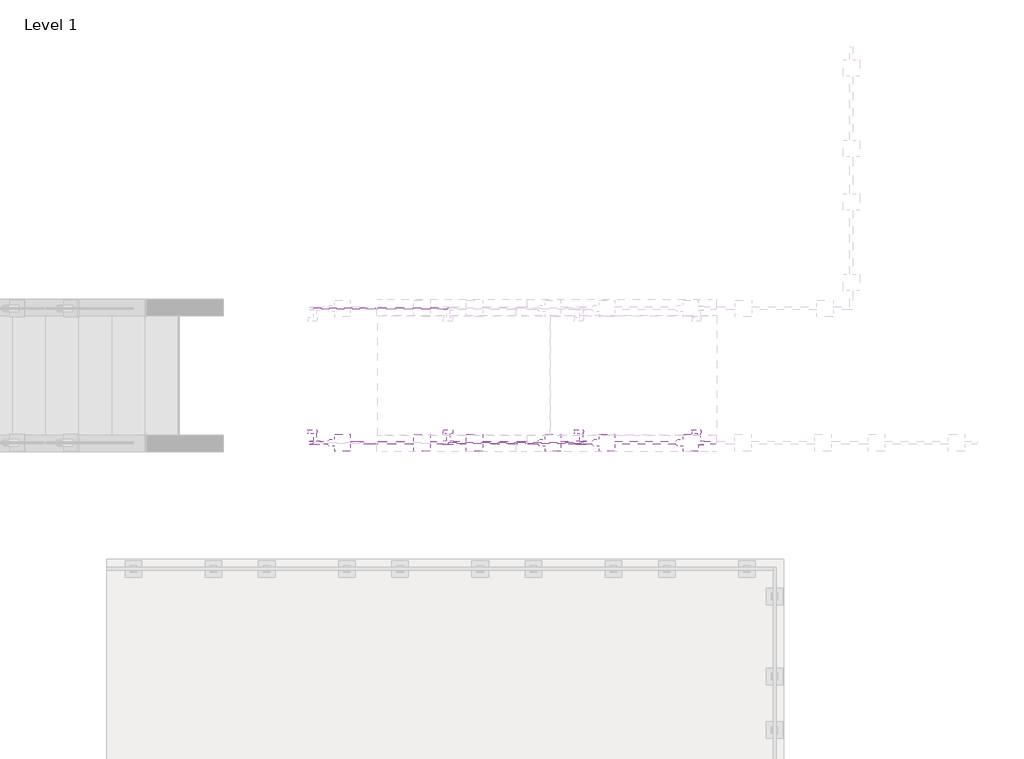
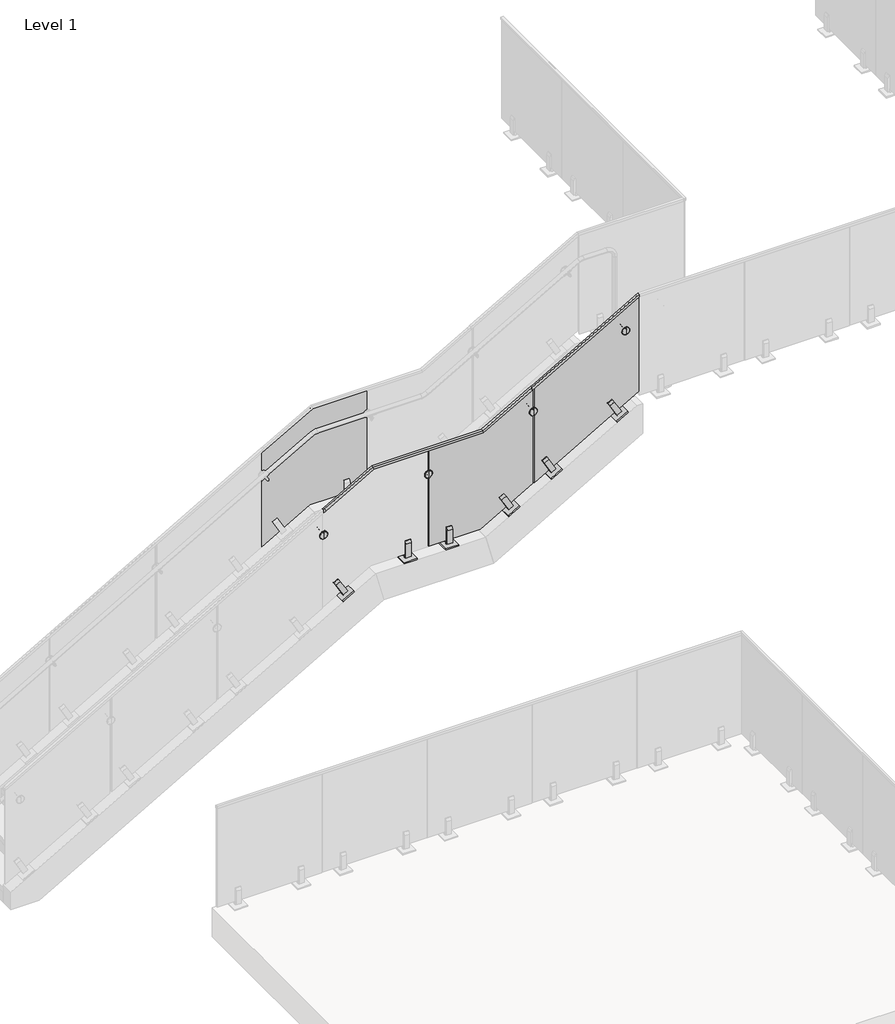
# One storey, part 15 of 17: 4 railings.
"""IFC4 building model written with IfcOpenShell, lengths in millimetres."""

from ifc_helpers import new_model, si_unit, point, frame, frame_2d, origin, place, context, project, spatial, polyline, circle_curve, trimmed, segment, composite_curve, outline, extrude, faceted_brep, transform, mapped, element, save
from ifc_brep_helpers import plane_surface, cylinder_surface, revolved_surface, advanced_brep
from components import standard_glass_22e67f8d, standard_glass_76b25bda

model = new_model("IFC4")

# Units and contexts
model_context = context("Model", 3, world=origin())
ifc_project = project(units=[si_unit("LENGTHUNIT", "METRE", prefix="MILLI")], contexts=[model_context])

# Site, building, storey
site = spatial("IfcSite", under=ifc_project)
building = spatial("IfcBuilding", under=site)
storey = spatial("IfcBuildingStorey", under=building, Name="Level 1", Elevation=0.0)

# Railings
placement = place(None, origin())
element("IfcRailing", 1, ObjectType="VIVA-VISIO-Glass-Concrete Surface Mount-Stair_Upper", at=placement, inside=storey, context=model_context, shape_type="SolidModel", body=[
    faceted_brep([(29407.4425061, -2434.2694611, 3542.8464286), (29407.4425061, -2412.5405549, 3542.8464286), (29407.4425061, -2412.5405549, 3513.5919505), (29407.4425061, -2417.055008, 3513.5919505), (29407.4425061, -2417.055008, 3538.4582569), (29407.4425061, -2429.755008, 3538.4582569), (29407.4425061, -2429.755008, 3513.5919505), (29407.4425061, -2434.2694611, 3513.5919505), (30452.8112561, -2434.2694611, 4140.2), (30452.8112561, -2434.2694611, 4110.9455219), (30452.8112561, -2429.755008, 4110.9455219), (30452.8112561, -2429.755008, 4135.8118283), (30452.8112561, -2417.055008, 4135.8118283), (30452.8112561, -2417.055008, 4110.9455219), (30452.8112561, -2412.5405549, 4110.9455219), (30452.8112561, -2412.5405549, 4140.2)], [[[0, 1, 2, 3, 4, 5, 6, 7]], [[8, 9, 10, 11, 12, 13, 14, 15]], [[1, 0, 8, 15]], [[2, 1, 15, 14]], [[3, 2, 14, 13]], [[4, 3, 13, 12]], [[5, 4, 12, 11]], [[6, 5, 11, 10]], [[7, 6, 10, 9]], [[0, 7, 9, 8]]]),
    extrude(outline(polyline([(0.0, 127.0000001), (127.0, 127.0000001), (127.0, 0.0), (0.0, 0.0), (0.0, 127.0000001)])), frame((30205.7490665, -2359.9117549, 2941.2860023), z_axis=(-0.4961389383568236, 0.0, 0.8682431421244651), x_axis=(0.0, -1.0, 0.0)), (0.0, 0.0, 1.0), 12.7),
    extrude(outline(polyline([(0.0, 12.7), (50.8, 12.7), (50.8, 0.0), (0.0, 0.0), (0.0, 12.7)])), frame((30238.8291303, -2429.7617549, 2960.1888959), z_axis=(-0.49613893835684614, 0.0, 0.8682431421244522), x_axis=(0.8682431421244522, 0.0, 0.49613893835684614)), (0.0, 0.0, 1.0), 50.8),
    extrude(outline(polyline([(0.0, 0.0), (0.0, 19.05), (166.6875, 19.05), (166.6875, 11.1125), (139.7, 0.0), (0.0, 0.0)])), frame((30227.0148218, -2398.0117549, 2980.8639357), z_axis=(0.8682431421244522, 0.0, 0.49613893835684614), x_axis=(-0.49613893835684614, 0.0, 0.8682431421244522)), (0.0, 0.0, 1.0), 50.8),
    extrude(outline(polyline([(0.0, 50.8), (139.7, 50.8), (166.6875, 39.6875), (166.6875, 31.75), (0.0, 31.75), (0.0, 50.8)])), frame((30227.0148218, -2398.0117549, 2980.8639357), z_axis=(0.8682431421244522, 0.0, 0.49613893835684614), x_axis=(-0.49613893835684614, 0.0, 0.8682431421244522)), (0.0, 0.0, 1.0), 50.8),
    extrude(outline(polyline([(4136.1482161, 30449.2255527), (3555.5767875, 29433.2255527), (2556.7751106, 29433.2255527), (3137.3465392, 30449.2255527), (4136.1482161, 30449.2255527)])), frame((0.0, -2429.7617549, 0.0), z_axis=(0.0, 1.0, 0.0), x_axis=(0.0, 0.0, 1.0)), (0.0, 0.0, 1.0), 12.7),
    extrude(outline(polyline([(0.0, 127.0000001), (127.0, 127.0000001), (127.0, 0.0), (0.0, 0.0), (0.0, 127.0000001)])), frame((29565.6690665, -2359.9117549, 2575.5260023), z_axis=(-0.4961389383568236, 0.0, 0.8682431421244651), x_axis=(0.0, -1.0, 0.0)), (0.0, 0.0, 1.0), 12.7),
    extrude(outline(polyline([(0.0, 12.7), (50.8, 12.7), (50.8, 0.0), (0.0, 0.0), (0.0, 12.7)])), frame((29598.7491303, -2429.7617549, 2594.4288959), z_axis=(-0.49613893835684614, 0.0, 0.8682431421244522), x_axis=(0.8682431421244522, 0.0, 0.49613893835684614)), (0.0, 0.0, 1.0), 50.8),
    extrude(outline(polyline([(0.0, 0.0), (0.0, 19.05), (166.6875, 19.05), (166.6875, 11.1125), (139.7, 0.0), (0.0, 0.0)])), frame((29586.9348218, -2398.0117549, 2615.1039357), z_axis=(0.8682431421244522, 0.0, 0.49613893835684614), x_axis=(-0.49613893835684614, 0.0, 0.8682431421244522)), (0.0, 0.0, 1.0), 50.8),
    extrude(outline(polyline([(0.0, 50.8), (139.7, 50.8), (166.6875, 39.6875), (166.6875, 31.75), (0.0, 31.75), (0.0, 50.8)])), frame((29586.9348218, -2398.0117549, 2615.1039357), z_axis=(0.8682431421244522, 0.0, 0.49613893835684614), x_axis=(-0.49613893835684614, 0.0, 0.8682431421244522)), (0.0, 0.0, 1.0), 50.8),
    extrude(outline(composite_curve([segment(trimmed(circle_curve(frame_2d((0.0, -7.0)), 7.0), [point((0.0, -14.0))], [point((0.0, 0.0))], False, "CARTESIAN"), True, "CONTINUOUS"), segment(trimmed(circle_curve(frame_2d((0.0, -7.0)), 7.0), [point((0.0, 0.0))], [point((0.0, -14.0))], False, "CARTESIAN"), True, "CONTINUOUS")], self_intersect=False)), frame((30334.6386992, -2348.1918939, 3785.9221988), z_axis=(-0.5018548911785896, 0.0, 0.8649518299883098), x_axis=(-0.8649518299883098, 0.0, -0.5018548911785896)), (0.0, 0.0, 1.0), 52.8378352),
    extrude(outline(composite_curve([segment(trimmed(circle_curve(frame_2d((18.6575252, 0.3952033)), 19.05), [point((5.2466064, 13.9247915))], [point((5.2466064, -13.134385))], True, "CARTESIAN"), True, "CONTINUOUS"), segment(polyline([(5.2466064, -13.134385), (4.2292194, -14.1607746)]), True, "CONTINUOUS"), segment(trimmed(circle_curve(frame_2d((3.1638975, -13.1047967)), 1.5), [point((4.2292194, -14.1607746))], [point((2.0329757, -14.0901982))], False, "CARTESIAN"), True, "CONTINUOUS"), segment(trimmed(circle_curve(frame_2d((18.6575252, 0.3952033)), 22.05), [point((2.0329757, -14.0901982))], [point((2.0329757, 14.8806047))], False, "CARTESIAN"), True, "CONTINUOUS"), segment(trimmed(circle_curve(frame_2d((3.1638975, 13.8952033)), 1.5), [point((2.0329757, 14.8806047))], [point((4.2292194, 14.9511811))], False, "CARTESIAN"), True, "CONTINUOUS"), segment(polyline([(4.2292194, 14.9511811), (5.2466064, 13.9247915)]), True, "CONTINUOUS")], self_intersect=False)), frame((30270.1709172, -2339.4646616, 3813.6633816), z_axis=(0.8664916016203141, 0.0, 0.49919165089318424), x_axis=(-0.49919165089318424, 0.0, 0.8664916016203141)), (0.0, 0.0, 1.0), 74.5229187),
    extrude(outline(composite_curve([segment(trimmed(circle_curve(frame_2d((3808.0587143, 30321.8425061)), 11.0132813), [point((3808.0587143, 30332.8557873))], [point((3808.0587143, 30310.8292248))], False, "CARTESIAN"), True, "CONTINUOUS"), segment(trimmed(circle_curve(frame_2d((3808.0587143, 30321.8425061)), 11.0132813), [point((3808.0587143, 30310.8292248))], [point((3808.0587143, 30332.8557873))], False, "CARTESIAN"), True, "CONTINUOUS")], self_intersect=False)), frame((0.0, -2407.4375361, 0.0), z_axis=(0.0, 1.0, 0.0), x_axis=(0.0, 0.0, 1.0)), (0.0, 0.0, 1.0), 79.2757812),
    advanced_brep(
    [(30321.8425061, -2439.3859736, 3808.0587143), (30321.8425061, -2439.3859736, 3844.1743393), (30321.8425061, -2439.3859736, 3771.9430893), (30321.8425061, -2407.4375361, 3771.9430893), (30321.8425061, -2407.4375361, 3844.1743393), (30321.8425061, -2407.4375361, 3808.0587143), (30321.8425061, -2409.4219111, 3769.9587143), (30321.8425061, -2409.4219111, 3846.1587143), (30321.8425061, -2417.0617549, 3769.9587143), (30321.8425061, -2417.0617549, 3846.1587143), (30321.8425061, -2417.0617549, 3795.3587143), (30321.8425061, -2417.0617549, 3820.7587143), (30321.8425061, -2429.7617549, 3795.3587143), (30321.8425061, -2429.7617549, 3820.7587143), (30321.8425061, -2429.7617549, 3769.9587143), (30321.8425061, -2429.7617549, 3846.1587143), (30321.8425061, -2437.4015986, 3769.9587143), (30321.8425061, -2437.4015986, 3846.1587143)],
    [
        (0, 1),
        (1, 2, circle_curve(frame((30321.8425061, -2439.3859736, 3808.0587143), z_axis=(0.0, -1.0, 0.0), x_axis=(0.0, 0.0, 1.0)), 36.115625)),
        (2, 0),
        (2, 1, circle_curve(frame((30321.8425061, -2439.3859736, 3808.0587143), z_axis=(0.0, -1.0, 0.0), x_axis=(0.0, 0.0, 1.0)), 36.115625)),
        (3, 4, circle_curve(frame((30321.8425061, -2407.4375361, 3808.0587143), z_axis=(0.0, 1.0, 0.0), x_axis=(0.0, 0.0, 1.0)), 36.115625)),
        (4, 5),
        (5, 3),
        (4, 3, circle_curve(frame((30321.8425061, -2407.4375361, 3808.0587143), z_axis=(0.0, 1.0, 0.0), x_axis=(0.0, 0.0, 1.0)), 36.115625)),
        (6, 7, circle_curve(frame((30321.8425061, -2409.4219111, 3808.0587143), z_axis=(0.0, 1.0, 0.0), x_axis=(0.0, 0.0, 1.0)), 38.1)),
        (7, 4),
        (3, 6),
        (7, 6, circle_curve(frame((30321.8425061, -2409.4219111, 3808.0587143), z_axis=(0.0, 1.0, 0.0), x_axis=(0.0, 0.0, 1.0)), 38.1)),
        (8, 9, circle_curve(frame((30321.8425061, -2417.0617549, 3808.0587143), z_axis=(0.0, 1.0, 0.0), x_axis=(0.0, 0.0, 1.0)), 38.1)),
        (9, 7),
        (6, 8),
        (9, 8, circle_curve(frame((30321.8425061, -2417.0617549, 3808.0587143), z_axis=(0.0, 1.0, 0.0), x_axis=(0.0, 0.0, 1.0)), 38.1)),
        (10, 11, circle_curve(frame((30321.8425061, -2417.0617549, 3808.0587143), z_axis=(0.0, 1.0, 0.0), x_axis=(0.0, 0.0, 1.0)), 12.7)),
        (11, 9),
        (8, 10),
        (11, 10, circle_curve(frame((30321.8425061, -2417.0617549, 3808.0587143), z_axis=(0.0, 1.0, 0.0), x_axis=(0.0, 0.0, 1.0)), 12.7)),
        (12, 13, circle_curve(frame((30321.8425061, -2429.7617549, 3808.0587143), z_axis=(0.0, 1.0, 0.0), x_axis=(0.0, 0.0, 1.0)), 12.7)),
        (13, 11),
        (10, 12),
        (13, 12, circle_curve(frame((30321.8425061, -2429.7617549, 3808.0587143), z_axis=(0.0, 1.0, 0.0), x_axis=(0.0, 0.0, 1.0)), 12.7)),
        (14, 15, circle_curve(frame((30321.8425061, -2429.7617549, 3808.0587143), z_axis=(0.0, 1.0, 0.0), x_axis=(0.0, 0.0, 1.0)), 38.1)),
        (15, 13),
        (12, 14),
        (15, 14, circle_curve(frame((30321.8425061, -2429.7617549, 3808.0587143), z_axis=(0.0, 1.0, 0.0), x_axis=(0.0, 0.0, 1.0)), 38.1)),
        (16, 17, circle_curve(frame((30321.8425061, -2437.4015986, 3808.0587143), z_axis=(0.0, 1.0, 0.0), x_axis=(0.0, 0.0, 1.0)), 38.1)),
        (17, 15),
        (14, 16),
        (17, 16, circle_curve(frame((30321.8425061, -2437.4015986, 3808.0587143), z_axis=(0.0, 1.0, 0.0), x_axis=(0.0, 0.0, 1.0)), 38.1)),
        (1, 17),
        (16, 2),
    ],
    [
        plane_surface(frame((30321.8425061, -2439.3859736, 3808.0587143), z_axis=(0.0, -1.0, 0.0), x_axis=(0.0, 0.0, 1.0))),
        plane_surface(frame((30321.8425061, -2407.4375361, 3808.0587143), z_axis=(0.0, 1.0, 0.0), x_axis=(0.0, 0.0, 1.0))),
        revolved_surface(polyline([(30321.8425061, -2407.4375361, 3844.1743393), (30321.8425061, -2409.4219111, 3846.1587143)]), (30321.8425061, -2475.5015986, 3808.0587143), (0.0, -1.0, 0.0)),
        cylinder_surface(frame((30321.8425061, -2475.5015986, 3808.0587143), z_axis=(0.0, -1.0, 0.0), x_axis=(0.0, 0.0, 1.0)), 38.1),
        plane_surface(frame((30321.8425061, -2417.0617549, 3808.0587143), z_axis=(0.0, -1.0, 0.0), x_axis=(0.0, 0.0, 1.0))),
        cylinder_surface(frame((30321.8425061, -2475.5015986, 3808.0587143), z_axis=(0.0, -1.0, 0.0), x_axis=(0.0, 0.0, 1.0)), 12.7),
        plane_surface(frame((30321.8425061, -2429.7617549, 3808.0587143), z_axis=(0.0, 1.0, 0.0), x_axis=(0.0, 0.0, 1.0))),
        revolved_surface(polyline([(30321.8425061, -2437.4015986, 3846.1587143), (30321.8425061, -2439.3859736, 3844.1743393)]), (30321.8425061, -2475.5015986, 3808.0587143), (0.0, -1.0, 0.0)),
    ],
    [
        (0, [[1, 2, 3]]),
        (0, [[-3, 4, -1]]),
        (1, [[5, 6, 7]]),
        (1, [[8, -7, -6]]),
        (2, [[9, 10, -5, 11]]),
        (2, [[12, -11, -8, -10]]),
        (3, [[13, 14, -9, 15]]),
        (3, [[16, -15, -12, -14]]),
        (4, [[17, 18, -13, 19]]),
        (4, [[20, -19, -16, -18]]),
        (5, [[21, 22, -17, 23]]),
        (5, [[24, -23, -20, -22]]),
        (6, [[25, 26, -21, 27]]),
        (6, [[28, -27, -24, -26]]),
        (3, [[29, 30, -25, 31]]),
        (3, [[32, -31, -28, -30]]),
        (7, [[-2, 33, -29, 34]]),
        (7, [[-4, -34, -32, -33]]),
    ],
),
])
element("IfcRailing", 2, ObjectType="VIVA-VISIO-Glass-Concrete Surface Mount-Landing", at=placement, inside=storey, context=model_context, shape_type="SolidModel", body=[
    faceted_brep([(29408.2362561, -2434.2694611, 3543.3), (29408.2362561, -2434.2694611, 3514.0455219), (29408.2362561, -2429.755008, 3514.0455219), (29408.2362561, -2429.755008, 3538.9118283), (29408.2362561, -2417.055008, 3538.9118283), (29408.2362561, -2417.055008, 3514.0455219), (29408.2362561, -2412.5405549, 3514.0455219), (29408.2362561, -2412.5405549, 3543.3), (27395.2862561, -2412.5405549, 3002.6428571), (27395.2862561, -2434.2694611, 3002.6428571), (27862.0112561, -2434.2694611, 3269.3428571), (27862.0112561, -2412.5405549, 3269.3428571), (27407.8863063, -2412.5405549, 2980.5884077), (27868.7565928, -2412.5405549, 3243.9428571), (27407.8863063, -2417.055008, 2980.5884077), (27868.7565928, -2417.055008, 3243.9428571), (27397.1762636, -2417.055008, 2999.3346897), (27863.0230566, -2417.055008, 3265.5328571), (27397.1762636, -2429.755008, 2999.3346897), (27863.0230566, -2429.755008, 3265.5328571), (27407.8863063, -2429.755008, 2980.5884077), (27868.7565928, -2429.755008, 3243.9428571), (27407.8863063, -2434.2694611, 2980.5884077), (27868.7565928, -2434.2694611, 3243.9428571), (28928.8112561, -2434.2694611, 3269.3428571), (28928.8112561, -2412.5405549, 3269.3428571), (28935.5565928, -2412.5405549, 3243.9428571), (28935.5565928, -2417.055008, 3243.9428571), (28929.8230566, -2417.055008, 3265.5328571), (28929.8230566, -2429.755008, 3265.5328571), (28935.5565928, -2429.755008, 3243.9428571), (28935.5565928, -2434.2694611, 3243.9428571), (27379.4112561, -2434.2694611, 2993.5732226), (27379.4112561, -2412.5405549, 2993.5732226), (27379.4112561, -2412.5405549, 2964.3201685), (27379.4112561, -2417.055008, 2964.3201685), (27379.4112561, -2417.055008, 2989.1852645), (27379.4112561, -2429.755008, 2989.1852645), (27379.4112561, -2429.755008, 2964.3201685), (27379.4112561, -2434.2694611, 2964.3201685)], [[[0, 1, 2, 3, 4, 5, 6, 7]], [[8, 9, 10, 11]], [[12, 8, 11, 13]], [[14, 12, 13, 15]], [[16, 14, 15, 17]], [[18, 16, 17, 19]], [[20, 18, 19, 21]], [[22, 20, 21, 23]], [[9, 22, 23, 10]], [[11, 10, 24, 25]], [[13, 11, 25, 26]], [[15, 13, 26, 27]], [[17, 15, 27, 28]], [[19, 17, 28, 29]], [[21, 19, 29, 30]], [[23, 21, 30, 31]], [[10, 23, 31, 24]], [[25, 24, 0, 7]], [[26, 25, 7, 6]], [[27, 26, 6, 5]], [[28, 27, 5, 4]], [[29, 28, 4, 3]], [[30, 29, 3, 2]], [[31, 30, 2, 1]], [[24, 31, 1, 0]], [[32, 33, 34, 35, 36, 37, 38, 39]], [[33, 32, 9, 8]], [[34, 33, 8, 12]], [[35, 34, 12, 14]], [[36, 35, 14, 16]], [[37, 36, 16, 18]], [[38, 37, 18, 20]], [[39, 38, 20, 22]], [[32, 39, 22, 9]]]),
    extrude(outline(polyline([(0.0, 127.0000001), (127.0, 127.0000001), (127.0, 0.0), (0.0, 0.0), (0.0, 127.0000001)])), frame((29151.8078165, -2359.9117549, 2339.0338595), z_axis=(-0.4961389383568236, 0.0, 0.8682431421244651), x_axis=(0.0, -1.0, 0.0)), (0.0, 0.0, 1.0), 12.7),
    extrude(outline(polyline([(0.0, 12.7), (50.8, 12.7), (50.8, 0.0), (0.0, 0.0), (0.0, 12.7)])), frame((29184.8878803, -2429.7617549, 2357.936753), z_axis=(-0.49613893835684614, 0.0, 0.8682431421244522), x_axis=(0.8682431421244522, 0.0, 0.49613893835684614)), (0.0, 0.0, 1.0), 50.8),
    extrude(outline(polyline([(0.0, 0.0), (0.0, 19.05), (166.6875, 19.05), (166.6875, 11.1125), (139.7, 0.0), (0.0, 0.0)])), frame((29173.0735718, -2398.0117549, 2378.6117929), z_axis=(0.8682431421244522, 0.0, 0.49613893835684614), x_axis=(-0.49613893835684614, 0.0, 0.8682431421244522)), (0.0, 0.0, 1.0), 50.8),
    extrude(outline(polyline([(0.0, 50.8), (139.7, 50.8), (166.6875, 39.6875), (166.6875, 31.75), (0.0, 31.75), (0.0, 50.8)])), frame((29173.0735718, -2398.0117549, 2378.6117929), z_axis=(0.8682431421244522, 0.0, 0.49613893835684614), x_axis=(-0.49613893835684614, 0.0, 0.8682431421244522)), (0.0, 0.0, 1.0), 50.8),
    extrude(outline(polyline([(28666.5562561, -2359.9117549), (28666.5562561, -2486.9117549), (28539.5562561, -2486.9117549), (28539.5562561, -2359.9117549), (28666.5562561, -2359.9117549)])), frame((0.0, 0.0, 2208.8928571), z_axis=(0.0, 0.0, 1.0), x_axis=(1.0, 0.0, 0.0)), (0.0, 0.0, 1.0), 12.7),
    extrude(outline(polyline([(28577.6562561, -2417.0617549), (28628.4562561, -2417.0617549), (28628.4562561, -2429.7617549), (28577.6562561, -2429.7617549), (28577.6562561, -2417.0617549)])), frame((0.0, 0.0, 2208.8928571), z_axis=(0.0, 0.0, 1.0), x_axis=(1.0, 0.0, 0.0)), (0.0, 0.0, 1.0), 50.8),
    extrude(outline(polyline([(-2398.0117549, 2232.7053571), (-2417.0617549, 2232.7053571), (-2417.0617549, 2399.3928571), (-2409.1242549, 2399.3928571), (-2398.0117549, 2372.4053571), (-2398.0117549, 2232.7053571)])), frame((28577.6562561, 0.0, 0.0), z_axis=(1.0, 0.0, 0.0), x_axis=(0.0, 1.0, 0.0)), (0.0, 0.0, 1.0), 50.8),
    extrude(outline(polyline([(-2448.8117549, 2232.7053571), (-2448.8117549, 2372.4053571), (-2437.6992549, 2399.3928571), (-2429.7617549, 2399.3928571), (-2429.7617549, 2232.7053571), (-2448.8117549, 2232.7053571)])), frame((28577.6562561, 0.0, 0.0), z_axis=(1.0, 0.0, 0.0), x_axis=(0.0, 1.0, 0.0)), (0.0, 0.0, 1.0), 50.8),
    extrude(outline(composite_curve([segment(trimmed(circle_curve(frame_2d((0.0, -7.0)), 7.0), [point((0.0, -14.0))], [point((0.0, 0.0))], False, "CARTESIAN"), True, "CONTINUOUS"), segment(trimmed(circle_curve(frame_2d((0.0, -7.0)), 7.0), [point((0.0, 0.0))], [point((0.0, -14.0))], False, "CARTESIAN"), True, "CONTINUOUS")], self_intersect=False)), frame((28401.7612561, -2348.1918939, 2982.4079722), z_axis=(-0.0016124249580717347, 0.0, 0.9999987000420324), x_axis=(-0.9999987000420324, 0.0, -0.0016124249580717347)), (0.0, 0.0, 1.0), 52.8378352),
    extrude(outline(composite_curve([segment(polyline([(5.2466064, -13.9247915), (4.2292193, -14.9511811)]), True, "CONTINUOUS"), segment(trimmed(circle_curve(frame_2d((3.1638974, -13.8952033)), 1.5), [point((4.2292193, -14.9511811))], [point((2.0329757, -14.8806047))], False, "CARTESIAN"), True, "CONTINUOUS"), segment(trimmed(circle_curve(frame_2d((18.6575252, -0.3952033)), 22.05), [point((2.0329757, -14.8806047))], [point((2.0329757, 14.0901982))], False, "CARTESIAN"), True, "CONTINUOUS"), segment(trimmed(circle_curve(frame_2d((3.1638974, 13.1047967)), 1.5), [point((2.0329757, 14.0901982))], [point((4.2292193, 14.1607746))], False, "CARTESIAN"), True, "CONTINUOUS"), segment(polyline([(4.2292193, 14.1607746), (5.2466064, 13.134385)]), True, "CONTINUOUS"), segment(trimmed(circle_curve(frame_2d((18.6575252, -0.3952033)), 19.05), [point((5.2466064, 13.134385))], [point((5.2466064, -13.9247915))], True, "CARTESIAN"), True, "CONTINUOUS")], self_intersect=False)), frame((28437.5288142, -2339.4646616, 3038.5796008), z_axis=(-0.9999989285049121, 0.0, 0.0014638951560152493), x_axis=(0.0014638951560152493, 0.0, 0.9999989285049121)), (0.0, 0.0, 1.0), 74.5229187),
    extrude(outline(composite_curve([segment(trimmed(circle_curve(frame_2d((3007.9768571, 28401.7612561)), 11.0132813), [point((3007.9768571, 28412.7745373))], [point((3007.9768571, 28390.7479748))], False, "CARTESIAN"), True, "CONTINUOUS"), segment(trimmed(circle_curve(frame_2d((3007.9768571, 28401.7612561)), 11.0132813), [point((3007.9768571, 28390.7479748))], [point((3007.9768571, 28412.7745373))], False, "CARTESIAN"), True, "CONTINUOUS")], self_intersect=False)), frame((0.0, -2407.4375361, 0.0), z_axis=(0.0, 1.0, 0.0), x_axis=(0.0, 0.0, 1.0)), (0.0, 0.0, 1.0), 79.2757812),
    advanced_brep(
    [(28401.7612561, -2439.3859736, 3007.9768571), (28401.7612561, -2439.3859736, 3044.0924821), (28401.7612561, -2439.3859736, 2971.8612321), (28401.7612561, -2407.4375361, 2971.8612321), (28401.7612561, -2407.4375361, 3044.0924821), (28401.7612561, -2407.4375361, 3007.9768571), (28401.7612561, -2409.4219111, 2969.8768571), (28401.7612561, -2409.4219111, 3046.0768571), (28401.7612561, -2417.0617549, 2969.8768571), (28401.7612561, -2417.0617549, 3046.0768571), (28401.7612561, -2417.0617549, 2995.2768571), (28401.7612561, -2417.0617549, 3020.6768571), (28401.7612561, -2429.7617549, 2995.2768571), (28401.7612561, -2429.7617549, 3020.6768571), (28401.7612561, -2429.7617549, 2969.8768571), (28401.7612561, -2429.7617549, 3046.0768571), (28401.7612561, -2437.4015986, 2969.8768571), (28401.7612561, -2437.4015986, 3046.0768571)],
    [
        (0, 1),
        (1, 2, circle_curve(frame((28401.7612561, -2439.3859736, 3007.9768571), z_axis=(0.0, -1.0, 0.0), x_axis=(0.0, 0.0, 1.0)), 36.115625)),
        (2, 0),
        (2, 1, circle_curve(frame((28401.7612561, -2439.3859736, 3007.9768571), z_axis=(0.0, -1.0, 0.0), x_axis=(0.0, 0.0, 1.0)), 36.115625)),
        (3, 4, circle_curve(frame((28401.7612561, -2407.4375361, 3007.9768571), z_axis=(0.0, 1.0, 0.0), x_axis=(0.0, 0.0, 1.0)), 36.115625)),
        (4, 5),
        (5, 3),
        (4, 3, circle_curve(frame((28401.7612561, -2407.4375361, 3007.9768571), z_axis=(0.0, 1.0, 0.0), x_axis=(0.0, 0.0, 1.0)), 36.115625)),
        (6, 7, circle_curve(frame((28401.7612561, -2409.4219111, 3007.9768571), z_axis=(0.0, 1.0, 0.0), x_axis=(0.0, 0.0, 1.0)), 38.1)),
        (7, 4),
        (3, 6),
        (7, 6, circle_curve(frame((28401.7612561, -2409.4219111, 3007.9768571), z_axis=(0.0, 1.0, 0.0), x_axis=(0.0, 0.0, 1.0)), 38.1)),
        (8, 9, circle_curve(frame((28401.7612561, -2417.0617549, 3007.9768571), z_axis=(0.0, 1.0, 0.0), x_axis=(0.0, 0.0, 1.0)), 38.1)),
        (9, 7),
        (6, 8),
        (9, 8, circle_curve(frame((28401.7612561, -2417.0617549, 3007.9768571), z_axis=(0.0, 1.0, 0.0), x_axis=(0.0, 0.0, 1.0)), 38.1)),
        (10, 11, circle_curve(frame((28401.7612561, -2417.0617549, 3007.9768571), z_axis=(0.0, 1.0, 0.0), x_axis=(0.0, 0.0, 1.0)), 12.7)),
        (11, 9),
        (8, 10),
        (11, 10, circle_curve(frame((28401.7612561, -2417.0617549, 3007.9768571), z_axis=(0.0, 1.0, 0.0), x_axis=(0.0, 0.0, 1.0)), 12.7)),
        (12, 13, circle_curve(frame((28401.7612561, -2429.7617549, 3007.9768571), z_axis=(0.0, 1.0, 0.0), x_axis=(0.0, 0.0, 1.0)), 12.7)),
        (13, 11),
        (10, 12),
        (13, 12, circle_curve(frame((28401.7612561, -2429.7617549, 3007.9768571), z_axis=(0.0, 1.0, 0.0), x_axis=(0.0, 0.0, 1.0)), 12.7)),
        (14, 15, circle_curve(frame((28401.7612561, -2429.7617549, 3007.9768571), z_axis=(0.0, 1.0, 0.0), x_axis=(0.0, 0.0, 1.0)), 38.1)),
        (15, 13),
        (12, 14),
        (15, 14, circle_curve(frame((28401.7612561, -2429.7617549, 3007.9768571), z_axis=(0.0, 1.0, 0.0), x_axis=(0.0, 0.0, 1.0)), 38.1)),
        (16, 17, circle_curve(frame((28401.7612561, -2437.4015986, 3007.9768571), z_axis=(0.0, 1.0, 0.0), x_axis=(0.0, 0.0, 1.0)), 38.1)),
        (17, 15),
        (14, 16),
        (17, 16, circle_curve(frame((28401.7612561, -2437.4015986, 3007.9768571), z_axis=(0.0, 1.0, 0.0), x_axis=(0.0, 0.0, 1.0)), 38.1)),
        (1, 17),
        (16, 2),
    ],
    [
        plane_surface(frame((28401.7612561, -2439.3859736, 3007.9768571), z_axis=(0.0, -1.0, 0.0), x_axis=(0.0, 0.0, 1.0))),
        plane_surface(frame((28401.7612561, -2407.4375361, 3007.9768571), z_axis=(0.0, 1.0, 0.0), x_axis=(0.0, 0.0, 1.0))),
        revolved_surface(polyline([(28401.7612561, -2407.4375361, 3044.0924821), (28401.7612561, -2409.4219111, 3046.0768571)]), (28401.7612561, -2475.5015986, 3007.9768571), (0.0, -1.0, 0.0)),
        cylinder_surface(frame((28401.7612561, -2475.5015986, 3007.9768571), z_axis=(0.0, -1.0, 0.0), x_axis=(0.0, 0.0, 1.0)), 38.1),
        plane_surface(frame((28401.7612561, -2417.0617549, 3007.9768571), z_axis=(0.0, -1.0, 0.0), x_axis=(0.0, 0.0, 1.0))),
        cylinder_surface(frame((28401.7612561, -2475.5015986, 3007.9768571), z_axis=(0.0, -1.0, 0.0), x_axis=(0.0, 0.0, 1.0)), 12.7),
        plane_surface(frame((28401.7612561, -2429.7617549, 3007.9768571), z_axis=(0.0, 1.0, 0.0), x_axis=(0.0, 0.0, 1.0))),
        revolved_surface(polyline([(28401.7612561, -2437.4015986, 3046.0768571), (28401.7612561, -2439.3859736, 3044.0924821)]), (28401.7612561, -2475.5015986, 3007.9768571), (0.0, -1.0, 0.0)),
    ],
    [
        (0, [[1, 2, 3]]),
        (0, [[-3, 4, -1]]),
        (1, [[5, 6, 7]]),
        (1, [[8, -7, -6]]),
        (2, [[9, 10, -5, 11]]),
        (2, [[12, -11, -8, -10]]),
        (3, [[13, 14, -9, 15]]),
        (3, [[16, -15, -12, -14]]),
        (4, [[17, 18, -13, 19]]),
        (4, [[20, -19, -16, -18]]),
        (5, [[21, 22, -17, 23]]),
        (5, [[24, -23, -20, -22]]),
        (6, [[25, 26, -21, 27]]),
        (6, [[28, -27, -24, -26]]),
        (3, [[29, 30, -25, 31]]),
        (3, [[32, -31, -28, -30]]),
        (7, [[-2, 33, -29, 34]]),
        (7, [[-4, -34, -32, -33]]),
    ],
),
    extrude(outline(polyline([(28263.9662561, -2359.9117549), (28263.9662561, -2486.9117549), (28136.9662561, -2486.9117549), (28136.9662561, -2359.9117549), (28263.9662561, -2359.9117549)])), frame((0.0, 0.0, 2208.8928571), z_axis=(0.0, 0.0, 1.0), x_axis=(1.0, 0.0, 0.0)), (0.0, 0.0, 1.0), 12.7),
    extrude(outline(polyline([(28175.0662561, -2417.0617549), (28225.8662561, -2417.0617549), (28225.8662561, -2429.7617549), (28175.0662561, -2429.7617549), (28175.0662561, -2417.0617549)])), frame((0.0, 0.0, 2208.8928571), z_axis=(0.0, 0.0, 1.0), x_axis=(1.0, 0.0, 0.0)), (0.0, 0.0, 1.0), 50.8),
    extrude(outline(polyline([(-2398.0117549, 2232.7053571), (-2417.0617549, 2232.7053571), (-2417.0617549, 2399.3928571), (-2409.1242549, 2399.3928571), (-2398.0117549, 2372.4053571), (-2398.0117549, 2232.7053571)])), frame((28175.0662561, 0.0, 0.0), z_axis=(1.0, 0.0, 0.0), x_axis=(0.0, 1.0, 0.0)), (0.0, 0.0, 1.0), 50.8),
    extrude(outline(polyline([(-2448.8117549, 2232.7053571), (-2448.8117549, 2372.4053571), (-2437.6992549, 2399.3928571), (-2429.7617549, 2399.3928571), (-2429.7617549, 2232.7053571), (-2448.8117549, 2232.7053571)])), frame((28175.0662561, 0.0, 0.0), z_axis=(1.0, 0.0, 0.0), x_axis=(0.0, 1.0, 0.0)), (0.0, 0.0, 1.0), 50.8),
    extrude(outline(polyline([(0.0, 127.0000001), (127.0, 127.0000001), (127.0, 0.0), (0.0, 0.0), (0.0, 127.0000001)])), frame((27541.4478165, -2359.9117549, 2028.4281452), z_axis=(-0.4961389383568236, 0.0, 0.8682431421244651), x_axis=(0.0, -1.0, 0.0)), (0.0, 0.0, 1.0), 12.7),
    extrude(outline(polyline([(0.0, 12.7), (50.8, 12.7), (50.8, 0.0), (0.0, 0.0), (0.0, 12.7)])), frame((27574.5278803, -2429.7617549, 2047.3310387), z_axis=(-0.49613893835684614, 0.0, 0.8682431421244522), x_axis=(0.8682431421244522, 0.0, 0.49613893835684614)), (0.0, 0.0, 1.0), 50.8),
    extrude(outline(polyline([(0.0, 0.0), (0.0, 19.05), (166.6875, 19.05), (166.6875, 11.1125), (139.7, 0.0), (0.0, 0.0)])), frame((27562.7135718, -2398.0117549, 2068.0060786), z_axis=(0.8682431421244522, 0.0, 0.49613893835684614), x_axis=(-0.49613893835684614, 0.0, 0.8682431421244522)), (0.0, 0.0, 1.0), 50.8),
    extrude(outline(polyline([(0.0, 50.8), (139.7, 50.8), (166.6875, 39.6875), (166.6875, 31.75), (0.0, 31.75), (0.0, 50.8)])), frame((27562.7135718, -2398.0117549, 2068.0060786), z_axis=(0.8682431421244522, 0.0, 0.49613893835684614), x_axis=(-0.49613893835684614, 0.0, 0.8682431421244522)), (0.0, 0.0, 1.0), 50.8),
    extrude(outline(composite_curve([segment(trimmed(circle_curve(frame_2d((0.0, -7.0)), 7.0), [point((0.0, -14.0))], [point((0.0, 0.0))], False, "CARTESIAN"), True, "CONTINUOUS"), segment(trimmed(circle_curve(frame_2d((0.0, -7.0)), 7.0), [point((0.0, 0.0))], [point((0.0, -14.0))], False, "CARTESIAN"), True, "CONTINUOUS")], self_intersect=False)), frame((29433.7324492, -2348.1918939, 3271.1186273), z_axis=(-0.5018548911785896, 0.0, 0.8649518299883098), x_axis=(-0.8649518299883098, 0.0, -0.5018548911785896)), (0.0, 0.0, 1.0), 52.8378352),
    extrude(outline(composite_curve([segment(trimmed(circle_curve(frame_2d((18.6575251, 0.3952033)), 19.05), [point((5.2466064, 13.9247915))], [point((5.2466064, -13.134385))], True, "CARTESIAN"), True, "CONTINUOUS"), segment(polyline([(5.2466064, -13.134385), (4.2292193, -14.1607746)]), True, "CONTINUOUS"), segment(trimmed(circle_curve(frame_2d((3.1638974, -13.1047967)), 1.5), [point((4.2292193, -14.1607746))], [point((2.0329757, -14.0901982))], False, "CARTESIAN"), True, "CONTINUOUS"), segment(trimmed(circle_curve(frame_2d((18.6575251, 0.3952033)), 22.05), [point((2.0329757, -14.0901982))], [point((2.0329757, 14.8806047))], False, "CARTESIAN"), True, "CONTINUOUS"), segment(trimmed(circle_curve(frame_2d((3.1638974, 13.8952033)), 1.5), [point((2.0329757, 14.8806047))], [point((4.2292193, 14.9511811))], False, "CARTESIAN"), True, "CONTINUOUS"), segment(polyline([(4.2292193, 14.9511811), (5.2466064, 13.9247915)]), True, "CONTINUOUS")], self_intersect=False)), frame((29369.2646672, -2339.4646616, 3298.8598102), z_axis=(0.8664916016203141, 0.0, 0.49919165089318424), x_axis=(-0.49919165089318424, 0.0, 0.8664916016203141)), (0.0, 0.0, 1.0), 74.5229187),
    extrude(outline(composite_curve([segment(trimmed(circle_curve(frame_2d((3293.2551429, 29420.9362561)), 11.0132813), [point((3293.2551429, 29431.9495373))], [point((3293.2551429, 29409.9229748))], False, "CARTESIAN"), True, "CONTINUOUS"), segment(trimmed(circle_curve(frame_2d((3293.2551429, 29420.9362561)), 11.0132813), [point((3293.2551429, 29409.9229748))], [point((3293.2551429, 29431.9495373))], False, "CARTESIAN"), True, "CONTINUOUS")], self_intersect=False)), frame((0.0, -2407.4375361, 0.0), z_axis=(0.0, 1.0, 0.0), x_axis=(0.0, 0.0, 1.0)), (0.0, 0.0, 1.0), 79.2757812),
    advanced_brep(
    [(29420.9362561, -2439.3859736, 3293.2551429), (29420.9362561, -2439.3859736, 3329.3707679), (29420.9362561, -2439.3859736, 3257.1395179), (29420.9362561, -2407.4375361, 3257.1395179), (29420.9362561, -2407.4375361, 3329.3707679), (29420.9362561, -2407.4375361, 3293.2551429), (29420.9362561, -2409.4219111, 3255.1551429), (29420.9362561, -2409.4219111, 3331.3551429), (29420.9362561, -2417.0617549, 3255.1551429), (29420.9362561, -2417.0617549, 3331.3551429), (29420.9362561, -2417.0617549, 3280.5551429), (29420.9362561, -2417.0617549, 3305.9551429), (29420.9362561, -2429.7617549, 3280.5551429), (29420.9362561, -2429.7617549, 3305.9551429), (29420.9362561, -2429.7617549, 3255.1551429), (29420.9362561, -2429.7617549, 3331.3551429), (29420.9362561, -2437.4015986, 3255.1551429), (29420.9362561, -2437.4015986, 3331.3551429)],
    [
        (0, 1),
        (1, 2, circle_curve(frame((29420.9362561, -2439.3859736, 3293.2551429), z_axis=(0.0, -1.0, 0.0), x_axis=(0.0, 0.0, 1.0)), 36.115625)),
        (2, 0),
        (2, 1, circle_curve(frame((29420.9362561, -2439.3859736, 3293.2551429), z_axis=(0.0, -1.0, 0.0), x_axis=(0.0, 0.0, 1.0)), 36.115625)),
        (3, 4, circle_curve(frame((29420.9362561, -2407.4375361, 3293.2551429), z_axis=(0.0, 1.0, 0.0), x_axis=(0.0, 0.0, 1.0)), 36.115625)),
        (4, 5),
        (5, 3),
        (4, 3, circle_curve(frame((29420.9362561, -2407.4375361, 3293.2551429), z_axis=(0.0, 1.0, 0.0), x_axis=(0.0, 0.0, 1.0)), 36.115625)),
        (6, 7, circle_curve(frame((29420.9362561, -2409.4219111, 3293.2551429), z_axis=(0.0, 1.0, 0.0), x_axis=(0.0, 0.0, 1.0)), 38.1)),
        (7, 4),
        (3, 6),
        (7, 6, circle_curve(frame((29420.9362561, -2409.4219111, 3293.2551429), z_axis=(0.0, 1.0, 0.0), x_axis=(0.0, 0.0, 1.0)), 38.1)),
        (8, 9, circle_curve(frame((29420.9362561, -2417.0617549, 3293.2551429), z_axis=(0.0, 1.0, 0.0), x_axis=(0.0, 0.0, 1.0)), 38.1)),
        (9, 7),
        (6, 8),
        (9, 8, circle_curve(frame((29420.9362561, -2417.0617549, 3293.2551429), z_axis=(0.0, 1.0, 0.0), x_axis=(0.0, 0.0, 1.0)), 38.1)),
        (10, 11, circle_curve(frame((29420.9362561, -2417.0617549, 3293.2551429), z_axis=(0.0, 1.0, 0.0), x_axis=(0.0, 0.0, 1.0)), 12.7)),
        (11, 9),
        (8, 10),
        (11, 10, circle_curve(frame((29420.9362561, -2417.0617549, 3293.2551429), z_axis=(0.0, 1.0, 0.0), x_axis=(0.0, 0.0, 1.0)), 12.7)),
        (12, 13, circle_curve(frame((29420.9362561, -2429.7617549, 3293.2551429), z_axis=(0.0, 1.0, 0.0), x_axis=(0.0, 0.0, 1.0)), 12.7)),
        (13, 11),
        (10, 12),
        (13, 12, circle_curve(frame((29420.9362561, -2429.7617549, 3293.2551429), z_axis=(0.0, 1.0, 0.0), x_axis=(0.0, 0.0, 1.0)), 12.7)),
        (14, 15, circle_curve(frame((29420.9362561, -2429.7617549, 3293.2551429), z_axis=(0.0, 1.0, 0.0), x_axis=(0.0, 0.0, 1.0)), 38.1)),
        (15, 13),
        (12, 14),
        (15, 14, circle_curve(frame((29420.9362561, -2429.7617549, 3293.2551429), z_axis=(0.0, 1.0, 0.0), x_axis=(0.0, 0.0, 1.0)), 38.1)),
        (16, 17, circle_curve(frame((29420.9362561, -2437.4015986, 3293.2551429), z_axis=(0.0, 1.0, 0.0), x_axis=(0.0, 0.0, 1.0)), 38.1)),
        (17, 15),
        (14, 16),
        (17, 16, circle_curve(frame((29420.9362561, -2437.4015986, 3293.2551429), z_axis=(0.0, 1.0, 0.0), x_axis=(0.0, 0.0, 1.0)), 38.1)),
        (1, 17),
        (16, 2),
    ],
    [
        plane_surface(frame((29420.9362561, -2439.3859736, 3293.2551429), z_axis=(0.0, -1.0, 0.0), x_axis=(0.0, 0.0, 1.0))),
        plane_surface(frame((29420.9362561, -2407.4375361, 3293.2551429), z_axis=(0.0, 1.0, 0.0), x_axis=(0.0, 0.0, 1.0))),
        revolved_surface(polyline([(29420.9362561, -2407.4375361, 3329.3707679), (29420.9362561, -2409.4219111, 3331.3551429)]), (29420.9362561, -2475.5015986, 3293.2551429), (0.0, -1.0, 0.0)),
        cylinder_surface(frame((29420.9362561, -2475.5015986, 3293.2551429), z_axis=(0.0, -1.0, 0.0), x_axis=(0.0, 0.0, 1.0)), 38.1),
        plane_surface(frame((29420.9362561, -2417.0617549, 3293.2551429), z_axis=(0.0, -1.0, 0.0), x_axis=(0.0, 0.0, 1.0))),
        cylinder_surface(frame((29420.9362561, -2475.5015986, 3293.2551429), z_axis=(0.0, -1.0, 0.0), x_axis=(0.0, 0.0, 1.0)), 12.7),
        plane_surface(frame((29420.9362561, -2429.7617549, 3293.2551429), z_axis=(0.0, 1.0, 0.0), x_axis=(0.0, 0.0, 1.0))),
        revolved_surface(polyline([(29420.9362561, -2437.4015986, 3331.3551429), (29420.9362561, -2439.3859736, 3329.3707679)]), (29420.9362561, -2475.5015986, 3293.2551429), (0.0, -1.0, 0.0)),
    ],
    [
        (0, [[1, 2, 3]]),
        (0, [[-3, 4, -1]]),
        (1, [[5, 6, 7]]),
        (1, [[8, -7, -6]]),
        (2, [[9, 10, -5, 11]]),
        (2, [[12, -11, -8, -10]]),
        (3, [[13, 14, -9, 15]]),
        (3, [[16, -15, -12, -14]]),
        (4, [[17, 18, -13, 19]]),
        (4, [[20, -19, -16, -18]]),
        (5, [[21, 22, -17, 23]]),
        (5, [[24, -23, -20, -22]]),
        (6, [[25, 26, -21, 27]]),
        (6, [[28, -27, -24, -26]]),
        (3, [[29, 30, -25, 31]]),
        (3, [[32, -31, -28, -30]]),
        (7, [[-2, 33, -29, 34]]),
        (7, [[-4, -34, -32, -33]]),
    ],
),
    extrude(outline(composite_curve([segment(trimmed(circle_curve(frame_2d((0.0, -7.0)), 7.0), [point((0.0, -14.0))], [point((0.0, 0.0))], False, "CARTESIAN"), True, "CONTINUOUS"), segment(trimmed(circle_curve(frame_2d((0.0, -7.0)), 7.0), [point((0.0, 0.0))], [point((0.0, -14.0))], False, "CARTESIAN"), True, "CONTINUOUS")], self_intersect=False)), frame((27395.3824492, -2348.1918939, 2715.9471988), z_axis=(-0.5018548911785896, 0.0, 0.8649518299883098), x_axis=(-0.8649518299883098, 0.0, -0.5018548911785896)), (0.0, 0.0, 1.0), 52.8378352),
    extrude(outline(composite_curve([segment(trimmed(circle_curve(frame_2d((18.6575252, 0.3952033)), 19.05), [point((5.2466064, 13.9247915))], [point((5.2466064, -13.134385))], True, "CARTESIAN"), True, "CONTINUOUS"), segment(polyline([(5.2466064, -13.134385), (4.2292194, -14.1607746)]), True, "CONTINUOUS"), segment(trimmed(circle_curve(frame_2d((3.1638975, -13.1047967)), 1.5), [point((4.2292194, -14.1607746))], [point((2.0329757, -14.0901982))], False, "CARTESIAN"), True, "CONTINUOUS"), segment(trimmed(circle_curve(frame_2d((18.6575252, 0.3952033)), 22.05), [point((2.0329757, -14.0901982))], [point((2.0329757, 14.8806047))], False, "CARTESIAN"), True, "CONTINUOUS"), segment(trimmed(circle_curve(frame_2d((3.1638975, 13.8952033)), 1.5), [point((2.0329757, 14.8806047))], [point((4.2292194, 14.9511811))], False, "CARTESIAN"), True, "CONTINUOUS"), segment(polyline([(4.2292194, 14.9511811), (5.2466064, 13.9247915)]), True, "CONTINUOUS")], self_intersect=False)), frame((27330.9146672, -2339.4646616, 2743.6883816), z_axis=(0.8664916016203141, 0.0, 0.49919165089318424), x_axis=(-0.49919165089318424, 0.0, 0.8664916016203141)), (0.0, 0.0, 1.0), 74.5229187),
    extrude(outline(composite_curve([segment(trimmed(circle_curve(frame_2d((2738.0837143, 27382.5862561)), 11.0132813), [point((2738.0837143, 27393.5995373))], [point((2738.0837143, 27371.5729748))], False, "CARTESIAN"), True, "CONTINUOUS"), segment(trimmed(circle_curve(frame_2d((2738.0837143, 27382.5862561)), 11.0132813), [point((2738.0837143, 27371.5729748))], [point((2738.0837143, 27393.5995373))], False, "CARTESIAN"), True, "CONTINUOUS")], self_intersect=False)), frame((0.0, -2407.4375361, 0.0), z_axis=(0.0, 1.0, 0.0), x_axis=(0.0, 0.0, 1.0)), (0.0, 0.0, 1.0), 79.2757812),
    advanced_brep(
    [(27382.5862561, -2439.3859736, 2738.0837143), (27382.5862561, -2439.3859736, 2774.1993393), (27382.5862561, -2439.3859736, 2701.9680893), (27382.5862561, -2407.4375361, 2701.9680893), (27382.5862561, -2407.4375361, 2774.1993393), (27382.5862561, -2407.4375361, 2738.0837143), (27382.5862561, -2409.4219111, 2699.9837143), (27382.5862561, -2409.4219111, 2776.1837143), (27382.5862561, -2417.0617549, 2699.9837143), (27382.5862561, -2417.0617549, 2776.1837143), (27382.5862561, -2417.0617549, 2725.3837143), (27382.5862561, -2417.0617549, 2750.7837143), (27382.5862561, -2429.7617549, 2725.3837143), (27382.5862561, -2429.7617549, 2750.7837143), (27382.5862561, -2429.7617549, 2699.9837143), (27382.5862561, -2429.7617549, 2776.1837143), (27382.5862561, -2437.4015986, 2699.9837143), (27382.5862561, -2437.4015986, 2776.1837143)],
    [
        (0, 1),
        (1, 2, circle_curve(frame((27382.5862561, -2439.3859736, 2738.0837143), z_axis=(0.0, -1.0, 0.0), x_axis=(0.0, 0.0, 1.0)), 36.115625)),
        (2, 0),
        (2, 1, circle_curve(frame((27382.5862561, -2439.3859736, 2738.0837143), z_axis=(0.0, -1.0, 0.0), x_axis=(0.0, 0.0, 1.0)), 36.115625)),
        (3, 4, circle_curve(frame((27382.5862561, -2407.4375361, 2738.0837143), z_axis=(0.0, 1.0, 0.0), x_axis=(0.0, 0.0, 1.0)), 36.115625)),
        (4, 5),
        (5, 3),
        (4, 3, circle_curve(frame((27382.5862561, -2407.4375361, 2738.0837143), z_axis=(0.0, 1.0, 0.0), x_axis=(0.0, 0.0, 1.0)), 36.115625)),
        (6, 7, circle_curve(frame((27382.5862561, -2409.4219111, 2738.0837143), z_axis=(0.0, 1.0, 0.0), x_axis=(0.0, 0.0, 1.0)), 38.1)),
        (7, 4),
        (3, 6),
        (7, 6, circle_curve(frame((27382.5862561, -2409.4219111, 2738.0837143), z_axis=(0.0, 1.0, 0.0), x_axis=(0.0, 0.0, 1.0)), 38.1)),
        (8, 9, circle_curve(frame((27382.5862561, -2417.0617549, 2738.0837143), z_axis=(0.0, 1.0, 0.0), x_axis=(0.0, 0.0, 1.0)), 38.1)),
        (9, 7),
        (6, 8),
        (9, 8, circle_curve(frame((27382.5862561, -2417.0617549, 2738.0837143), z_axis=(0.0, 1.0, 0.0), x_axis=(0.0, 0.0, 1.0)), 38.1)),
        (10, 11, circle_curve(frame((27382.5862561, -2417.0617549, 2738.0837143), z_axis=(0.0, 1.0, 0.0), x_axis=(0.0, 0.0, 1.0)), 12.7)),
        (11, 9),
        (8, 10),
        (11, 10, circle_curve(frame((27382.5862561, -2417.0617549, 2738.0837143), z_axis=(0.0, 1.0, 0.0), x_axis=(0.0, 0.0, 1.0)), 12.7)),
        (12, 13, circle_curve(frame((27382.5862561, -2429.7617549, 2738.0837143), z_axis=(0.0, 1.0, 0.0), x_axis=(0.0, 0.0, 1.0)), 12.7)),
        (13, 11),
        (10, 12),
        (13, 12, circle_curve(frame((27382.5862561, -2429.7617549, 2738.0837143), z_axis=(0.0, 1.0, 0.0), x_axis=(0.0, 0.0, 1.0)), 12.7)),
        (14, 15, circle_curve(frame((27382.5862561, -2429.7617549, 2738.0837143), z_axis=(0.0, 1.0, 0.0), x_axis=(0.0, 0.0, 1.0)), 38.1)),
        (15, 13),
        (12, 14),
        (15, 14, circle_curve(frame((27382.5862561, -2429.7617549, 2738.0837143), z_axis=(0.0, 1.0, 0.0), x_axis=(0.0, 0.0, 1.0)), 38.1)),
        (16, 17, circle_curve(frame((27382.5862561, -2437.4015986, 2738.0837143), z_axis=(0.0, 1.0, 0.0), x_axis=(0.0, 0.0, 1.0)), 38.1)),
        (17, 15),
        (14, 16),
        (17, 16, circle_curve(frame((27382.5862561, -2437.4015986, 2738.0837143), z_axis=(0.0, 1.0, 0.0), x_axis=(0.0, 0.0, 1.0)), 38.1)),
        (1, 17),
        (16, 2),
    ],
    [
        plane_surface(frame((27382.5862561, -2439.3859736, 2738.0837143), z_axis=(0.0, -1.0, 0.0), x_axis=(0.0, 0.0, 1.0))),
        plane_surface(frame((27382.5862561, -2407.4375361, 2738.0837143), z_axis=(0.0, 1.0, 0.0), x_axis=(0.0, 0.0, 1.0))),
        revolved_surface(polyline([(27382.5862561, -2407.4375361, 2774.1993393), (27382.5862561, -2409.4219111, 2776.1837143)]), (27382.5862561, -2475.5015986, 2738.0837143), (0.0, -1.0, 0.0)),
        cylinder_surface(frame((27382.5862561, -2475.5015986, 2738.0837143), z_axis=(0.0, -1.0, 0.0), x_axis=(0.0, 0.0, 1.0)), 38.1),
        plane_surface(frame((27382.5862561, -2417.0617549, 2738.0837143), z_axis=(0.0, -1.0, 0.0), x_axis=(0.0, 0.0, 1.0))),
        cylinder_surface(frame((27382.5862561, -2475.5015986, 2738.0837143), z_axis=(0.0, -1.0, 0.0), x_axis=(0.0, 0.0, 1.0)), 12.7),
        plane_surface(frame((27382.5862561, -2429.7617549, 2738.0837143), z_axis=(0.0, 1.0, 0.0), x_axis=(0.0, 0.0, 1.0))),
        revolved_surface(polyline([(27382.5862561, -2437.4015986, 2776.1837143), (27382.5862561, -2439.3859736, 2774.1993393)]), (27382.5862561, -2475.5015986, 2738.0837143), (0.0, -1.0, 0.0)),
    ],
    [
        (0, [[1, 2, 3]]),
        (0, [[-3, 4, -1]]),
        (1, [[5, 6, 7]]),
        (1, [[8, -7, -6]]),
        (2, [[9, 10, -5, 11]]),
        (2, [[12, -11, -8, -10]]),
        (3, [[13, 14, -9, 15]]),
        (3, [[16, -15, -12, -14]]),
        (4, [[17, 18, -13, 19]]),
        (4, [[20, -19, -16, -18]]),
        (5, [[21, 22, -17, 23]]),
        (5, [[24, -23, -20, -22]]),
        (6, [[25, 26, -21, 27]]),
        (6, [[28, -27, -24, -26]]),
        (3, [[29, 30, -25, 31]]),
        (3, [[32, -31, -28, -30]]),
        (7, [[-2, 33, -29, 34]]),
        (7, [[-4, -34, -32, -33]]),
    ],
),
])
standard_glass_shape = standard_glass_22e67f8d(model_context)
element("IfcRailing", 3, ObjectType="Baluster-Landing-Panel-VIVA-VISIO-Upper : Standard_Glass", at=placement, inside=storey, context=model_context, shape_type="MappedRepresentation", body=[
    mapped(standard_glass_shape, transform((29420.9362561, -2461.3694841, 2177.1428571), x_axis=(0.0, 1.0, 0.0), y_axis=(-1.0, 0.0, 0.0), z_axis=(0.0, 0.0, 1.0))),
])
standard_glass_2_shape = standard_glass_76b25bda(model_context)
element("IfcRailing", 4, ObjectType="Baluster-Landing-Panel-VIVA-VISIO-Lower : Standard_Glass", at=placement, inside=storey, context=model_context, shape_type="MappedRepresentation", body=[
    mapped(standard_glass_2_shape, transform((27378.7798564, -1358.1992549, 2177.1428571), x_axis=(0.0, -1.0, 0.0), y_axis=(1.0, 0.0, 0.0), z_axis=(0.0, 0.0, 1.0))),
])

save(model, "model.ifc")
